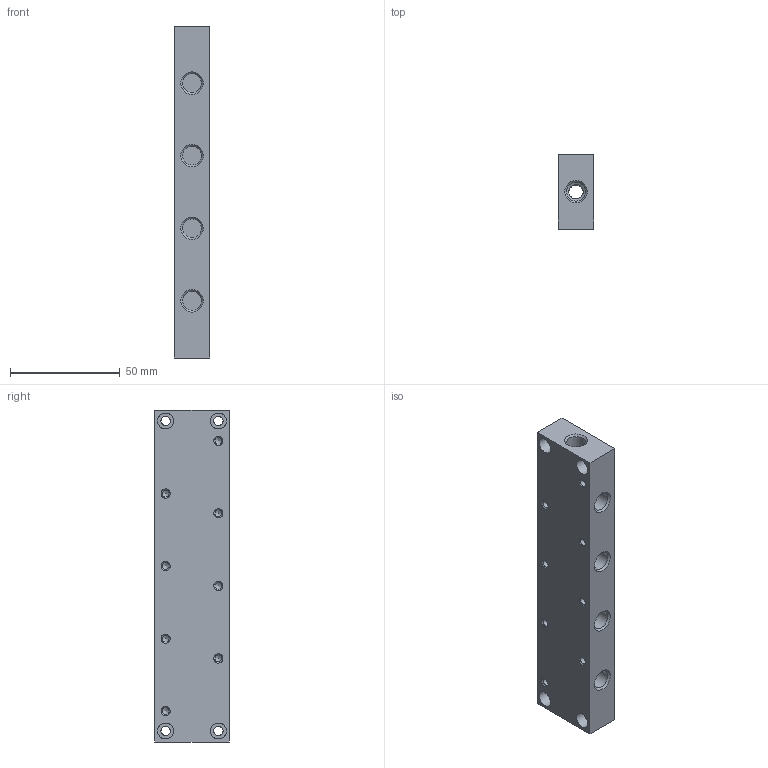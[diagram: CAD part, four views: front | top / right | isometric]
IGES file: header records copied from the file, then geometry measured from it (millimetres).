
Global section: file name: 300_08_04; native system: Autodesk Inventor 2014; preprocessor: unknown; author: A. Manieri; organization: Pneumax S.p.A.; date: 20161005.080813; units: millimetre
Bounding box: 16 x 34 x 151 mm (x, y, z)
Volume: 71834.3 mm3; surface area: 22081.6 mm2
Topology: 1 solids, 1 shells, 61 faces, 178 edges, 127 vertices
Faces by surface type: bspline 61
